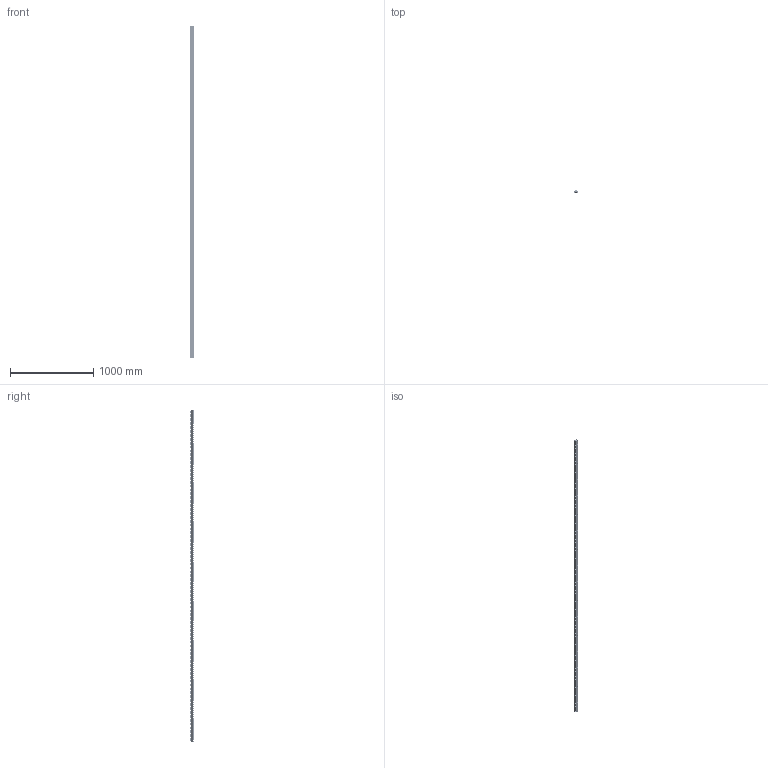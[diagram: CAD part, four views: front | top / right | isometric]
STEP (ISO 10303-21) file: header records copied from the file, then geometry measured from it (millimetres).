
FILE_DESCRIPTION (( 'STEP AP214' ), '1' );
FILE_NAME ('990-003esd-4000.step', '2022-09-28T08:50:50', ( '' ), ( '' ), 'SwSTEP 2.0', 'SolidWorks 2021', '' );
FILE_SCHEMA (( 'AUTOMOTIVE_DESIGN' ));
Length unit declared in the file: millimetre
Products named in the file (1): 990-003esd-4000
Bounding box: 41 x 50.98 x 4000 mm (x, y, z)
Volume: 1985470.7 mm3; surface area: 1869422.8 mm2
Topology: 256 solids, 256 shells, 6878 faces, 19353 edges, 12902 vertices
Faces by surface type: plane 4374, cylinder 1824, bspline 595, cone 85
Full cylindrical faces by diameter (mm): 3 x170, 6 x510, 30 x85, 33 x85, 45 x85
Entity records: 306442 total; most frequent: CARTESIAN_POINT 55964, DIRECTION 35314, ORIENTED_EDGE 34796, EDGE_CURVE 17398, AXIS2_PLACEMENT_3D 12652, VERTEX_POINT 12562, LINE 10010, VECTOR 10010
